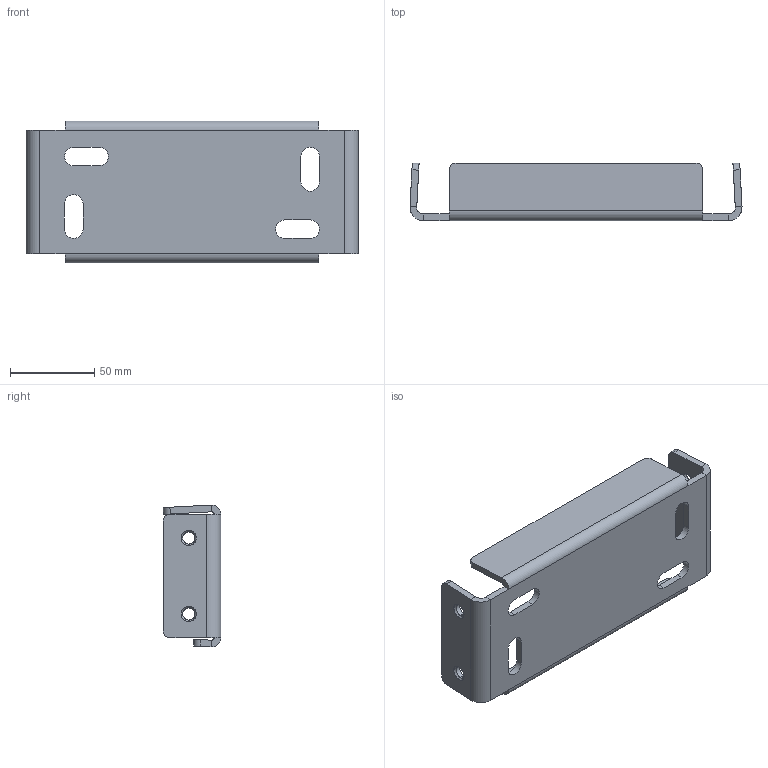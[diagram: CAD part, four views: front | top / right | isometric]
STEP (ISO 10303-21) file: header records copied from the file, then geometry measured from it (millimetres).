
FILE_DESCRIPTION (( 'STEP AP214' ), '1' );
FILE_NAME ('10142V000_Wandbeschlag_Index_3.STEP', '2014-11-19T14:03:07', ( 'Admin' ), ( '' ), 'SwSTEP 2.0', 'SolidWorks 2014', '' );
FILE_SCHEMA (( 'AUTOMOTIVE_DESIGN' ));
Length unit declared in the file: millimetre
Products named in the file (1): 10142V000_Wandbeschlag_Index_3
Bounding box: 196.55 x 34.17 x 83.98 mm (x, y, z)
Volume: 98625.3 mm3; surface area: 53643.1 mm2
Topology: 1 solids, 1 shells, 151 faces, 385 edges, 246 vertices
Faces by surface type: bspline 59, plane 58, cylinder 34
Entity records: 9499 total; most frequent: CARTESIAN_POINT 6210, ORIENTED_EDGE 770, DIRECTION 481, EDGE_CURVE 385, VERTEX_POINT 246, LINE 191, VECTOR 191, EDGE_LOOP 177
